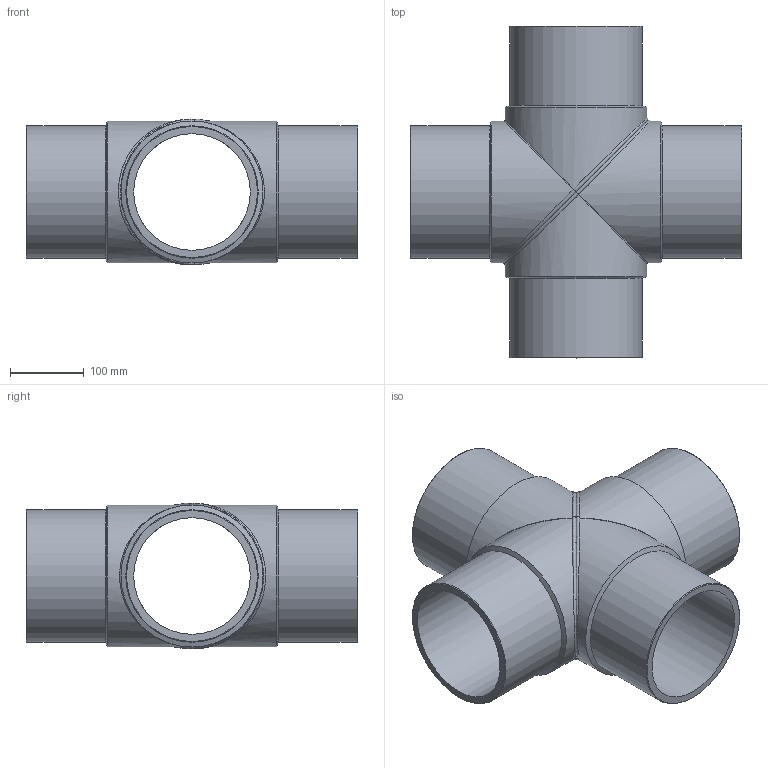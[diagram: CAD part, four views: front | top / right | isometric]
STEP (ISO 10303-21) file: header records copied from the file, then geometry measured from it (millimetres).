
FILE_DESCRIPTION(/* description */ ('Unknown'),/* implementation_level */ '2;1');
FILE_NAME(/* name */ 'CRP180B',/* time_stamp */ '2022-07-08T11:00:07+02:00',/* author */ ('Unknown'),/* organization */ ('Unknown'),/* preprocessor_version */ 'ST-DEVELOPER v18.102',/* originating_system */ 'Solid Edge',/* authorisation */ 'Unknown');
FILE_SCHEMA (('AUTOMOTIVE_DESIGN {1 0 10303 214 3 1 1}'));
Length unit declared in the file: millimetre
Products named in the file (3): CRP180B; CRP180B_mir
Assembly tree (2 placements, depth 2):
  CRP180B
    CRP180B
    CRP180B_mir
Bounding box: 451 x 451 x 197.99 mm (x, y, z)
Volume: 4775437.7 mm3; surface area: 789415.7 mm2
Topology: 2 solids, 2 shells, 32 faces, 88 edges, 58 vertices
Faces by surface type: cylinder 12, cone 8, plane 6, bspline 6
Full cylindrical faces by diameter (mm): 158.6 x4, 180 x4, 193 x4
Entity records: 3235 total; most frequent: CARTESIAN_POINT 2517, DIRECTION 126, ORIENTED_EDGE 116, AXIS2_PLACEMENT_3D 63, EDGE_CURVE 58, EDGE_LOOP 58, FACE_BOUND 58, VERTEX_POINT 48
